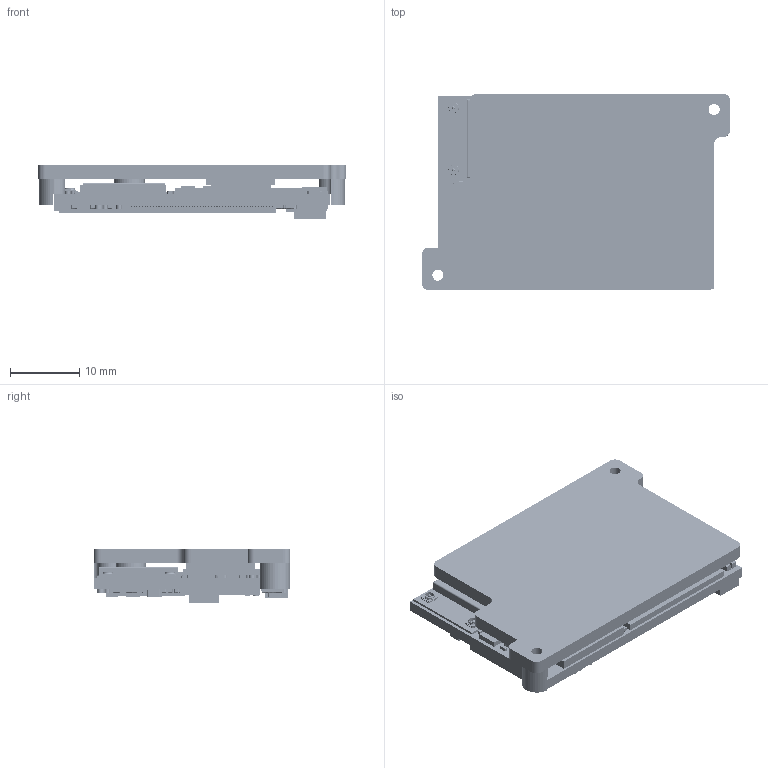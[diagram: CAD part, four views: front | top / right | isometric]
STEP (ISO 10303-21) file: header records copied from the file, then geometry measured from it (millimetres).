
FILE_DESCRIPTION (( 'STEP AP214' ), '1' );
FILE_NAME ('UCM-iMX95 REV 1.1_asm.STEP', '2026-03-26T19:23:03', ( '' ), ( '' ), 'SwSTEP 2.0', 'SolidWorks 2024', '' );
FILE_SCHEMA (( 'AUTOMOTIVE_DESIGN' ));
Length unit declared in the file: millimetre
Products named in the file (61): 163K04000S_RESNET8P0805-compulab_163K04000S; 147AR4702S_Ind2_5x2x1_2_147AR4702S; 123V1R202S_QFN3_5x4_5-24_123V1R202S; 151A47610S_RC0603_151A47610S; 613W01015S-WiFi 6 _M.2 1216_(Sona NX611); 123M0R703S_QFN8x8-56-5x5_5_123M0R703S; UCM-iMX95 REV 1.1_board; 141B32301I_XTAL3_2x1_5_141B32301I; 151B10500S-Samsung_-_CL05A104KO5NNNC; 106C20320S_SC70_106C20320S; 206B10730-Heat_spreader_UCM-iMX95_rev1.1; 139A10260S_LED-0603_139A10260S; 15502R600S_RC0402_15502R600S; 111L53200S_BGA-315-12.4x15mm_111L53200S; 161B00001S_RC0201_161B00001S; UCM-iMX95 REV 1.1_asm; 147D22101S_FB0603_147D22101S; 161C12001S_RC0402_161C12001S; 151B22600S_RC0402; 111M33602S_MO-276BA_111M33602S; 111S31000S_MO-229VCED-21; 151B104B0S_RC0201_Walsin; 161C24911S_RC0402_161C24911S; 141B25603I_OSC3225_141B25603I; 151B10600S_RC0402_SAMSUNG; 115A01154S_BGA-716-0.7mm-body19x19_115A01154S; 161C47511S_RC0402; 106C20000S_SC_70-MAA05A_106C20000S; 161C10021S-RC0402FR-0710K0; 131D31540S_SOT-563-6_131D31540S; 151B105B0S_RC0201_151B105B0S; 147AR4700S_Ind2_5x2x1_2_147AR4700S; 161C20001S_RC0402_161C20001S; 147AR1000S_IND4_3x4_7SM_147AR1000S; 106C20570S_MO-252UAAD_106C20570S; 151D18000S_RC0402_151D18000S; 123V1R201S_QFN3_5x4_5-24_123V1R201S; 161C15011S_RC0402_161C15011S; 161C51111S_RC0402_161C51111S; 151D15000S_RC0402_151D15000S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
Assembly tree (396 placements, depth 2):
  UCM-iMX95 REV 1.1_asm
    UCM-iMX95 REV 1.1_board
    106C20000S_SC_70-MAA05A_106C20000S
    106C20320S_SC70_106C20320S
    106C20570S_MO-252UAAD_106C20570S
    111L53200S_BGA-315-12.4x15mm_111L53200S
    111M33602S_MO-276BA_111M33602S
    111S31000S_MO-229VCED-21
    115A01154S_BGA-716-0.7mm-body19x19_115A01154S
    116A00640S_MO-220WHHE-1_116A00640S
    116B00640S_DFN3.2x2.5-10_116B00640S
    123M0R703S_QFN8x8-56-5x5_5_123M0R703S
    123V1R201S_QFN3_5x4_5-24_123V1R201S
    123V1R202S_QFN3_5x4_5-24_123V1R202S
    131D31540S_SOT-563-6_131D31540S
    139A10260S_LED-0603_139A10260S
    141B24605I_OSC3225_141B24605I
    141B25603I_OSC3225_141B25603I
    141B32301I_XTAL3_2x1_5_141B32301I
    147AR1000S_IND4_3x4_7SM_147AR1000S
    147AR1001S_IND3_2x3_5SM_147AR1001S
    147AR4700S_Ind2_5x2x1_2_147AR4700S  x3
    147AR4702S_Ind2_5x2x1_2_147AR4702S  x2
    147D22100S_FB0402_147D22100S
    147D22101S_FB0603_147D22101S  x3
    151A22500S_RC0402_151A22500S  x22
    151A47610S_RC0603_151A47610S  x9
    151B10400S-Samsung_-_CL05A104KO5NNNC  x6
    151B104B0S_RC0201_Walsin  x32
    151B10500S-Samsung_-_CL05A104KO5NNNC  x7
    151B105B0S_RC0201_151B105B0S  x78
    151B10600S_RC0402_SAMSUNG  x30
    151B22600S_RC0402  x17
    151B47500S_RC0402_151B47500S  x15
    151B475B0S_C0201_151B475B0S  x2
    151C224B0S_RC0201_151C224B0S  x23
    151D15000S_RC0402_151D15000S  x2
    151D18000S_RC0402_151D18000S  x2
    15502R600S_RC0402_15502R600S  x2
    161B00001S_RC0201_161B00001S  x4
    161C00005S_RC0402  x24
    161C10011S-RC-02K1001FT  x12
    161C10021S-RC0402FR-0710K0  x34
    161C10031S_RC0402  x11
    161C12001S_RC0402_161C12001S
    161C15001S_RC0402_161C15001S
    161C15011S_RC0402_161C15011S
    161C20001S_RC0402_161C20001S  x5
    161C22015S_RC0402_161C22015S  x5
    161C24003S_RC0402_161C24003S
    161C24911S_RC0402_161C24911S
    161C30021S_RC0402_161C30021S
    161C33R05S_RC0402_161C33R05S
    161C47511S_RC0402  x6
    161C51111S_RC0402_161C51111S  x4
    163I08822S_RESNET10P1206-compulab_163I08822S
    163K04000S_RESNET8P0805-compulab_163K04000S  x2
    182E04005S-Conn._B2B_2x20_cont._P0.4mm_Plug
    182E10004S-Conn._B2B_2x50 cont._P0.4mm_Plug  x2
    613W01015S-WiFi 6 _M.2 1216_(Sona NX611)
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Bounding box: 44.6 x 28.5 x 7.8 mm (x, y, z)
Volume: 5580.4 mm3; surface area: 10303 mm2
Topology: 1200 solids, 1200 shells, 36907 faces, 103075 edges, 63524 vertices
Faces by surface type: plane 23395, cylinder 8256, bspline 5228, cone 28
Entity records: 333840 total; most frequent: CARTESIAN_POINT 51220, ORIENTED_EDGE 45412, DIRECTION 42886, EDGE_CURVE 22706, VECTOR 18666, LINE 18666, VERTEX_POINT 15028, AXIS2_PLACEMENT_3D 12110
